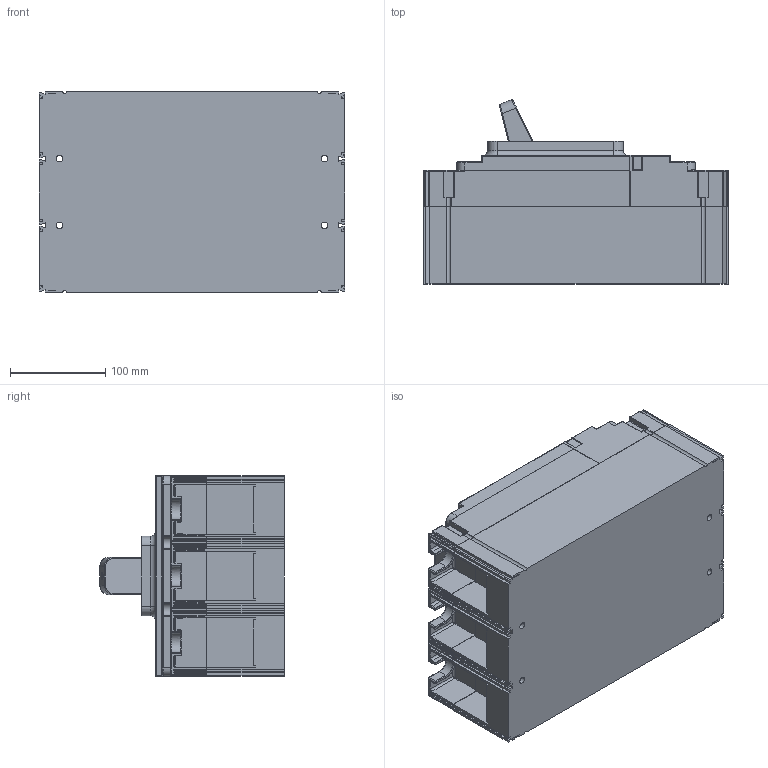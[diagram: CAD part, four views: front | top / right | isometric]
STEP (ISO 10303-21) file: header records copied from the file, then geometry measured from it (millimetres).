
FILE_DESCRIPTION((''),'2;1');
FILE_NAME('HGP800_3P_ASM','2016-09-08T',('HHI'),(''),'PRO/ENGINEER BY PARAMETRIC TECHNOLOGY CORPORATION, 2012453','PRO/ENGINEER BY PARAMETRIC TECHNOLOGY CORPORATION, 2012453','');
FILE_SCHEMA(('CONFIG_CONTROL_DESIGN'));
Products named in the file (17): U8_HANDLE; U8_ON_OFF_PRINT_HANDLE_ASSY_ASM_ASM; U8_3P_HANDLE_ASSY_ASM_ASM; U8_3P_MECHANISM_ASSY_ASM_ASM; U8_3P_MAIN_ASSY_ASM_ASM; U8_3P_MAIN_TOTAL_ASSY_ASM_ASM; U8_3P_800A_TOTAL_BASE_ASSY_ASM_ASM; U8_3P_MAIN_COVER; U8_3P_TRIP_COVER; U8_3P_800A_TOTAL_ASSY_ASM_ASM; U8_FRONT_COVER; U8_TRIP_BUTTON; U8_FRONT_COVER_ASSY_ASM_ASM; U8_HGP800X_PRINTED_COVER_ASSY_A_ASM; U8_HGP800X_800A_3P_40_JJ_ASM_ASM; 123; HGP800_3P_ASM
Assembly tree (16 placements, depth 10):
  HGP800_3P_ASM
    U8_HGP800X_800A_3P_40_JJ_ASM_ASM
      U8_3P_800A_TOTAL_ASSY_ASM_ASM
        U8_3P_800A_TOTAL_BASE_ASSY_ASM_ASM
          U8_3P_MAIN_TOTAL_ASSY_ASM_ASM
            U8_3P_MAIN_ASSY_ASM_ASM
              U8_3P_MECHANISM_ASSY_ASM_ASM
                U8_3P_HANDLE_ASSY_ASM_ASM
                  U8_ON_OFF_PRINT_HANDLE_ASSY_ASM_ASM
        U8_3P_MAIN_COVER
        U8_3P_TRIP_COVER
      U8_HGP800X_PRINTED_COVER_ASSY_A_ASM
        U8_FRONT_COVER_ASSY_ASM_ASM
          U8_FRONT_COVER
          U8_TRIP_BUTTON
    123
Bounding box: 320 x 193.26 x 210 mm (x, y, z)
Volume: 7824619.1 mm3; surface area: 697527.7 mm2
Topology: 6 solids, 54 shells, 3510 faces, 8789 edges, 5256 vertices
Faces by surface type: cylinder 1307, plane 1272, torus 347, bspline 233, sphere 232, cone 97, extrusion 22
Entity records: 124100 total; most frequent: CARTESIAN_POINT 41363, DIRECTION 17658, ORIENTED_EDGE 17106, EDGE_CURVE 8553, AXIS2_PLACEMENT_3D 6589, VERTEX_POINT 5256, VECTOR 4480, LINE 4458
